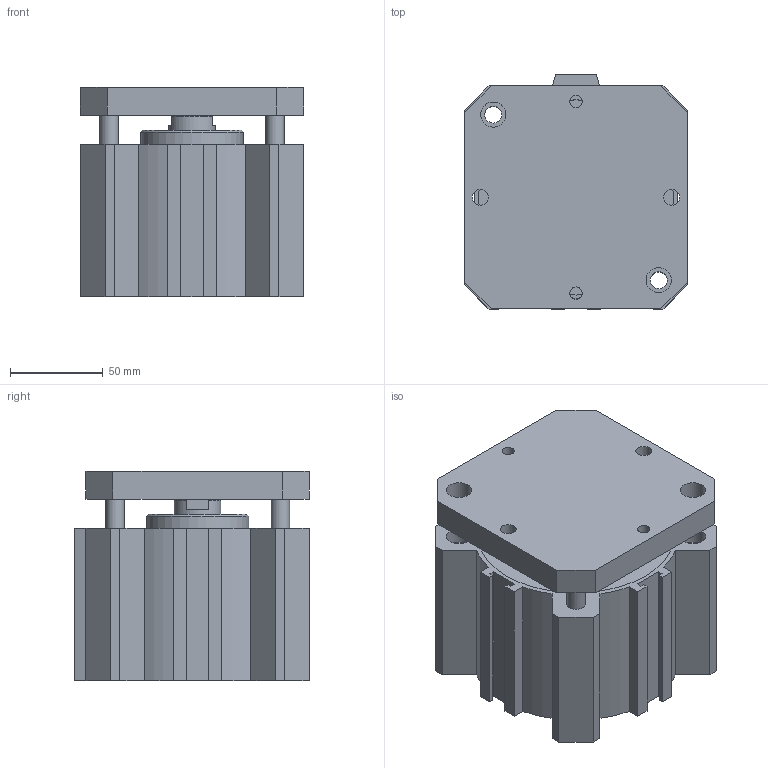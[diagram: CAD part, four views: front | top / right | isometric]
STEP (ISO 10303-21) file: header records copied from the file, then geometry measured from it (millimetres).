
FILE_DESCRIPTION(/* description */ (''),/* implementation_level */ '2;1');
FILE_NAME(/* name */ 'I:\Area Tecnica\Disegni\VARIE-3D\Componenti\1500\Ø100\15##_100_####_#\1501_100_0035_AR.stp',/* time_stamp */ '2016-08-24T15:09:39+02:00',/* author */ ('Maniean1'),/* organization */ (''),/* preprocessor_version */ 'ST-DEVELOPER v15.2',/* originating_system */ 'Autodesk Inventor 2014',/* authorisation */ '');
FILE_SCHEMA (('AUTOMOTIVE_DESIGN { 1 0 10303 214 3 1 1 }'));
Length unit declared in the file: millimetre
Products named in the file (3): C_1501_100_0035_AR; S_1501_100_0035_AR; 1501_100_0035_AR
Bounding box: 120 x 126 x 112.5 mm (x, y, z)
Volume: 907935.2 mm3; surface area: 189536.6 mm2
Topology: 2 solids, 2 shells, 139 faces, 342 edges, 229 vertices
Faces by surface type: plane 94, cylinder 40, cone 5
Full cylindrical faces by diameter (mm): 6.647 x2, 8.5 x2, 9 x4, 10 x4, 13.5 x10, 14.95 x2, 25 x2, 55 x2, 100 x2, 105 x2
Entity records: 3978 total; most frequent: CARTESIAN_POINT 674, DIRECTION 672, ORIENTED_EDGE 600, EDGE_CURVE 300, AXIS2_PLACEMENT_3D 232, VERTEX_POINT 222, EDGE_LOOP 216, LINE 208
